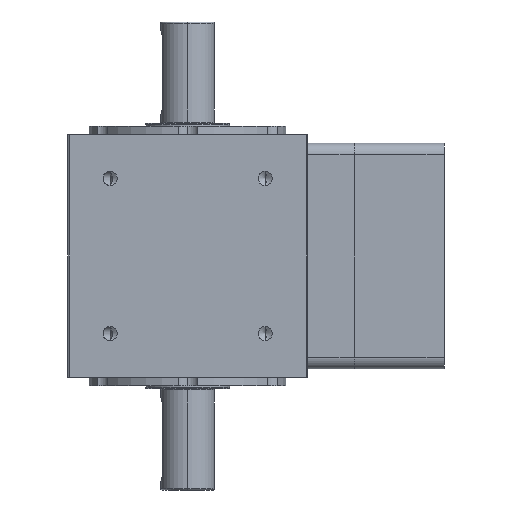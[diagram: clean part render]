
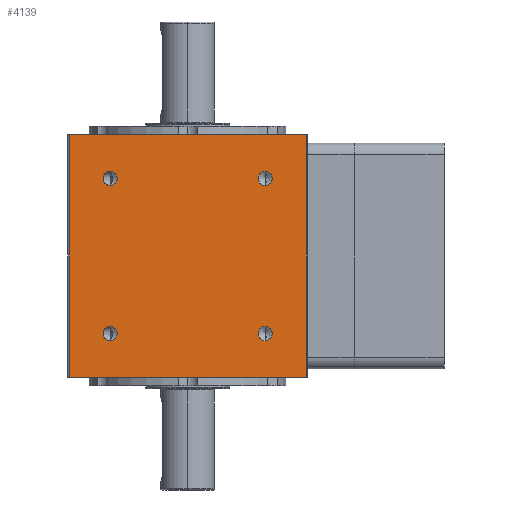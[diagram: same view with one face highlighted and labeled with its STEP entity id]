
A CAD part, left-side view. The second image highlights one B-rep face of the part: STEP entity #4139.
In plain terms, the highlighted planar face has unit normal (-1, 0, 0).
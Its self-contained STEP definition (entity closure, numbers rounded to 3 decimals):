
#116 = CARTESIAN_POINT ( 'NONE',  ( -42.5, 42., 43. ) ) ;
#300 = AXIS2_PLACEMENT_3D ( 'NONE', #4855, #11838, #9877 ) ;
#418 = DIRECTION ( 'NONE',  ( 0., 0., 1. ) ) ;
#477 = DIRECTION ( 'NONE',  ( 0., 0., 1. ) ) ;
#641 = VERTEX_POINT ( 'NONE', #116 ) ;
#750 = VECTOR ( 'NONE', #3621, 1000. ) ;
#856 = EDGE_CURVE ( 'NONE', #4704, #3592, #2175, .T. ) ;
#1089 = EDGE_CURVE ( 'NONE', #641, #9648, #1828, .T. ) ;
#1267 = EDGE_LOOP ( 'NONE', ( #7069, #11528, #11239, #7033 ) ) ;
#1407 = AXIS2_PLACEMENT_3D ( 'NONE', #9519, #4379, #477 ) ;
#1523 = AXIS2_PLACEMENT_3D ( 'NONE', #4983, #5972, #7997 ) ;
#1666 = CARTESIAN_POINT ( 'NONE',  ( -42.5, 42.5, 43. ) ) ;
#1685 = DIRECTION ( 'NONE',  ( 0., 0., 1. ) ) ;
#1723 = ORIENTED_EDGE ( 'NONE', *, *, #9726, .F. ) ;
#1828 = LINE ( 'NONE', #1666, #750 ) ;
#1979 = VERTEX_POINT ( 'NONE', #9525 ) ;
#2060 = CIRCLE ( 'NONE', #5452, 2.5 ) ;
#2064 = DIRECTION ( 'NONE',  ( 0., 0., 1. ) ) ;
#2128 = CARTESIAN_POINT ( 'NONE',  ( -42.5, 27.5, -25. ) ) ;
#2175 = CIRCLE ( 'NONE', #8804, 2.5 ) ;
#2305 = CARTESIAN_POINT ( 'NONE',  ( -42.5, 27.5, 30. ) ) ;
#2437 = CARTESIAN_POINT ( 'NONE',  ( -42.5, -27.5, -30. ) ) ;
#2506 = EDGE_CURVE ( 'NONE', #4560, #10018, #2579, .T. ) ;
#2579 = CIRCLE ( 'NONE', #2855, 2.5 ) ;
#2764 = CARTESIAN_POINT ( 'NONE',  ( -42.5, -27.5, -27.5 ) ) ;
#2780 = VERTEX_POINT ( 'NONE', #2128 ) ;
#2839 = EDGE_LOOP ( 'NONE', ( #8098, #4218 ) ) ;
#2855 = AXIS2_PLACEMENT_3D ( 'NONE', #5716, #11677, #1685 ) ;
#2915 = DIRECTION ( 'NONE',  ( -1., 0., 0. ) ) ;
#3401 = ORIENTED_EDGE ( 'NONE', *, *, #3798, .F. ) ;
#3446 = DIRECTION ( 'NONE',  ( -1., 0., 0. ) ) ;
#3592 = VERTEX_POINT ( 'NONE', #10409 ) ;
#3604 = CARTESIAN_POINT ( 'NONE',  ( -42.5, 42.5, -43. ) ) ;
#3621 = DIRECTION ( 'NONE',  ( 0., -1., 0. ) ) ;
#3705 = EDGE_LOOP ( 'NONE', ( #7793, #4377 ) ) ;
#3764 = ORIENTED_EDGE ( 'NONE', *, *, #856, .F. ) ;
#3798 = EDGE_CURVE ( 'NONE', #6824, #11904, #11784, .T. ) ;
#3953 = FACE_OUTER_BOUND ( 'NONE', #1267, .T. ) ;
#4139 = ADVANCED_FACE ( 'NONE', ( #11946, #10057, #12709, #10543, #3953 ), #6589, .T. ) ;
#4218 = ORIENTED_EDGE ( 'NONE', *, *, #5602, .F. ) ;
#4377 = ORIENTED_EDGE ( 'NONE', *, *, #11187, .F. ) ;
#4379 = DIRECTION ( 'NONE',  ( -1., 0., 0. ) ) ;
#4560 = VERTEX_POINT ( 'NONE', #2305 ) ;
#4622 = CARTESIAN_POINT ( 'NONE',  ( -42.5, 42.5, -43. ) ) ;
#4704 = VERTEX_POINT ( 'NONE', #2437 ) ;
#4855 = CARTESIAN_POINT ( 'NONE',  ( -42.5, 27.5, 27.5 ) ) ;
#4908 = EDGE_CURVE ( 'NONE', #641, #1979, #6018, .T. ) ;
#4947 = LINE ( 'NONE', #11937, #11207 ) ;
#4983 = CARTESIAN_POINT ( 'NONE',  ( -42.5, -27.5, 27.5 ) ) ;
#5452 = AXIS2_PLACEMENT_3D ( 'NONE', #2764, #9627, #6630 ) ;
#5556 = CIRCLE ( 'NONE', #300, 2.5 ) ;
#5602 = EDGE_CURVE ( 'NONE', #6981, #2780, #11638, .T. ) ;
#5716 = CARTESIAN_POINT ( 'NONE',  ( -42.5, 27.5, 27.5 ) ) ;
#5822 = LINE ( 'NONE', #3604, #8957 ) ;
#5972 = DIRECTION ( 'NONE',  ( -1., 0., 0. ) ) ;
#6018 = LINE ( 'NONE', #12898, #6796 ) ;
#6048 = AXIS2_PLACEMENT_3D ( 'NONE', #4622, #3446, #6632 ) ;
#6085 = DIRECTION ( 'NONE',  ( -1., 0., 0. ) ) ;
#6145 = CARTESIAN_POINT ( 'NONE',  ( -42.5, -27.5, 25. ) ) ;
#6155 = CARTESIAN_POINT ( 'NONE',  ( -42.5, -42., 43. ) ) ;
#6205 = EDGE_CURVE ( 'NONE', #3592, #4704, #2060, .T. ) ;
#6416 = DIRECTION ( 'NONE',  ( -1., 0., 0. ) ) ;
#6589 = PLANE ( 'NONE',  #6048 ) ;
#6630 = DIRECTION ( 'NONE',  ( 0., 0., 1. ) ) ;
#6632 = DIRECTION ( 'NONE',  ( 0., -1., 0. ) ) ;
#6796 = VECTOR ( 'NONE', #12854, 1000. ) ;
#6824 = VERTEX_POINT ( 'NONE', #9020 ) ;
#6981 = VERTEX_POINT ( 'NONE', #10621 ) ;
#7033 = ORIENTED_EDGE ( 'NONE', *, *, #4908, .T. ) ;
#7058 = EDGE_LOOP ( 'NONE', ( #3401, #1723 ) ) ;
#7069 = ORIENTED_EDGE ( 'NONE', *, *, #12974, .T. ) ;
#7793 = ORIENTED_EDGE ( 'NONE', *, *, #2506, .F. ) ;
#7948 = ORIENTED_EDGE ( 'NONE', *, *, #6205, .F. ) ;
#7997 = DIRECTION ( 'NONE',  ( 0., 0., 1. ) ) ;
#8098 = ORIENTED_EDGE ( 'NONE', *, *, #12297, .F. ) ;
#8413 = CARTESIAN_POINT ( 'NONE',  ( -42.5, 27.5, 25. ) ) ;
#8804 = AXIS2_PLACEMENT_3D ( 'NONE', #10410, #6416, #418 ) ;
#8957 = VECTOR ( 'NONE', #9625, 1000. ) ;
#9009 = DIRECTION ( 'NONE',  ( 0., 0., 1. ) ) ;
#9014 = CARTESIAN_POINT ( 'NONE',  ( -42.5, -27.5, 27.5 ) ) ;
#9020 = CARTESIAN_POINT ( 'NONE',  ( -42.5, -27.5, 30. ) ) ;
#9123 = CARTESIAN_POINT ( 'NONE',  ( -42.5, 27.5, -27.5 ) ) ;
#9519 = CARTESIAN_POINT ( 'NONE',  ( -42.5, 27.5, -27.5 ) ) ;
#9525 = CARTESIAN_POINT ( 'NONE',  ( -42.5, 42., -43. ) ) ;
#9625 = DIRECTION ( 'NONE',  ( 0., -1., 0. ) ) ;
#9627 = DIRECTION ( 'NONE',  ( -1., 0., 0. ) ) ;
#9641 = AXIS2_PLACEMENT_3D ( 'NONE', #9014, #2915, #10899 ) ;
#9648 = VERTEX_POINT ( 'NONE', #6155 ) ;
#9722 = EDGE_LOOP ( 'NONE', ( #7948, #3764 ) ) ;
#9726 = EDGE_CURVE ( 'NONE', #11904, #6824, #10312, .T. ) ;
#9877 = DIRECTION ( 'NONE',  ( 0., 0., 1. ) ) ;
#10018 = VERTEX_POINT ( 'NONE', #8413 ) ;
#10057 = FACE_BOUND ( 'NONE', #2839, .T. ) ;
#10312 = CIRCLE ( 'NONE', #1523, 2.5 ) ;
#10409 = CARTESIAN_POINT ( 'NONE',  ( -42.5, -27.5, -25. ) ) ;
#10410 = CARTESIAN_POINT ( 'NONE',  ( -42.5, -27.5, -27.5 ) ) ;
#10543 = FACE_BOUND ( 'NONE', #7058, .T. ) ;
#10621 = CARTESIAN_POINT ( 'NONE',  ( -42.5, 27.5, -30. ) ) ;
#10899 = DIRECTION ( 'NONE',  ( 0., 0., 1. ) ) ;
#11187 = EDGE_CURVE ( 'NONE', #10018, #4560, #5556, .T. ) ;
#11207 = VECTOR ( 'NONE', #9009, 1000. ) ;
#11239 = ORIENTED_EDGE ( 'NONE', *, *, #1089, .F. ) ;
#11355 = EDGE_CURVE ( 'NONE', #12650, #9648, #4947, .T. ) ;
#11528 = ORIENTED_EDGE ( 'NONE', *, *, #11355, .T. ) ;
#11638 = CIRCLE ( 'NONE', #12562, 2.5 ) ;
#11677 = DIRECTION ( 'NONE',  ( -1., 0., 0. ) ) ;
#11784 = CIRCLE ( 'NONE', #9641, 2.5 ) ;
#11838 = DIRECTION ( 'NONE',  ( -1., 0., 0. ) ) ;
#11904 = VERTEX_POINT ( 'NONE', #6145 ) ;
#11937 = CARTESIAN_POINT ( 'NONE',  ( -42.5, -42., -43. ) ) ;
#11946 = FACE_BOUND ( 'NONE', #3705, .T. ) ;
#11968 = CARTESIAN_POINT ( 'NONE',  ( -42.5, -42., -43. ) ) ;
#12297 = EDGE_CURVE ( 'NONE', #2780, #6981, #12423, .T. ) ;
#12423 = CIRCLE ( 'NONE', #1407, 2.5 ) ;
#12562 = AXIS2_PLACEMENT_3D ( 'NONE', #9123, #6085, #2064 ) ;
#12650 = VERTEX_POINT ( 'NONE', #11968 ) ;
#12709 = FACE_BOUND ( 'NONE', #9722, .T. ) ;
#12854 = DIRECTION ( 'NONE',  ( 0., 0., -1. ) ) ;
#12898 = CARTESIAN_POINT ( 'NONE',  ( -42.5, 42., -43. ) ) ;
#12974 = EDGE_CURVE ( 'NONE', #1979, #12650, #5822, .T. ) ;
